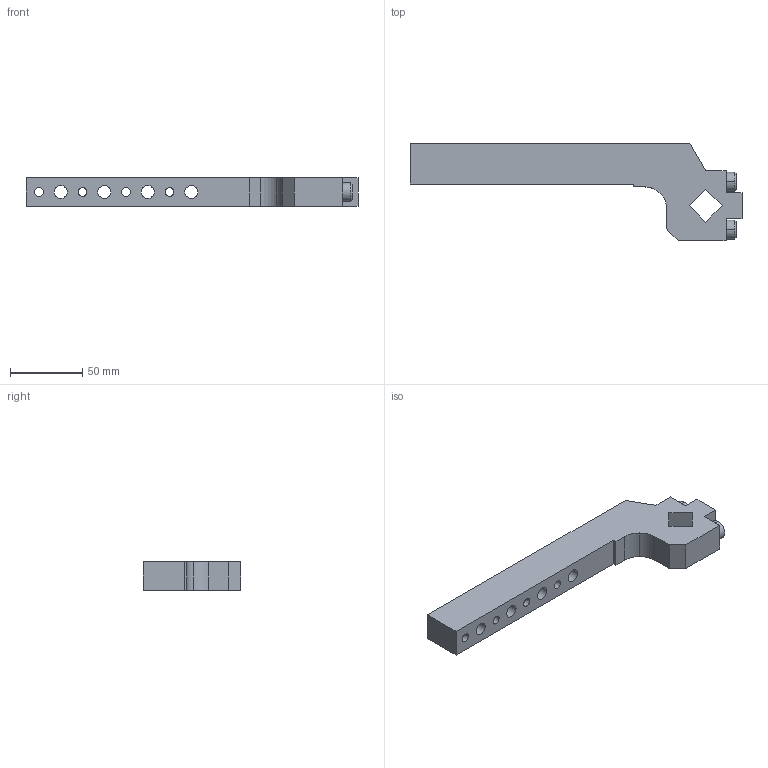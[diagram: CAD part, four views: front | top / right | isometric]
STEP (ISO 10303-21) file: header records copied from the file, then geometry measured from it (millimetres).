
FILE_DESCRIPTION((''),'2;1');
FILE_NAME('S:\Matthew\Step Files\XM Clamp Arms\XJ50-02.stp','2006-06-28T08:06:52',('Matthew'),(''),'Autodesk Inventor 8','Autodesk Inventor 8','');
FILE_SCHEMA(('AUTOMOTIVE_DESIGN { 1 0 10303 214 1 1 1 1 }'));
Length unit declared in the file: millimetre
Products named in the file (1): XJ50-02
Bounding box: 229 x 67 x 20 mm (x, y, z)
Volume: 137844.8 mm3; surface area: 32717.6 mm2
Topology: 1 solids, 1 shells, 63 faces, 167 edges, 110 vertices
Faces by surface type: plane 37, cylinder 22, cone 4
Entity records: 2016 total; most frequent: DIRECTION 343, CARTESIAN_POINT 341, ORIENTED_EDGE 334, EDGE_CURVE 167, VECTOR 119, LINE 119, AXIS2_PLACEMENT_3D 112, VERTEX_POINT 110
